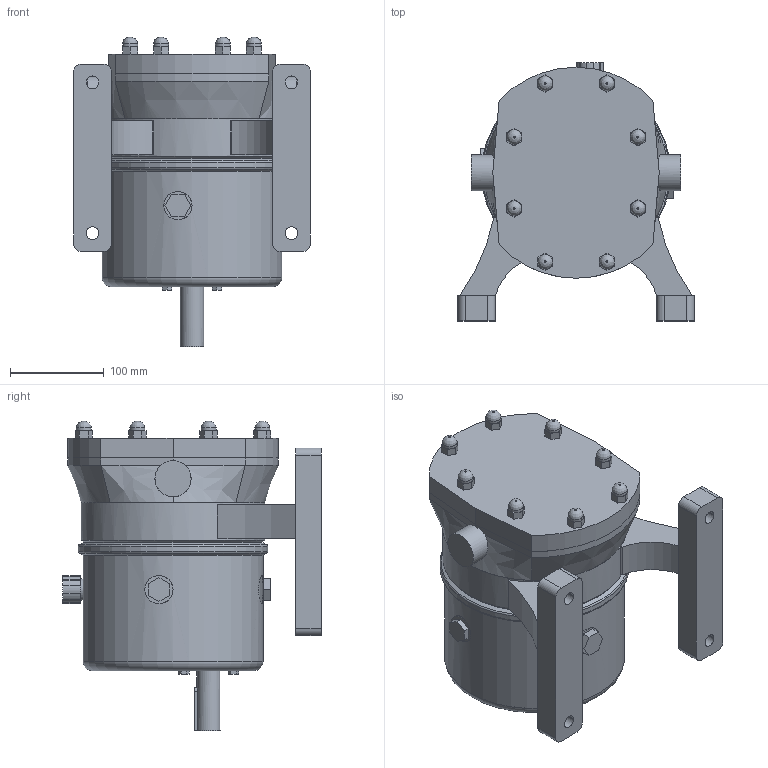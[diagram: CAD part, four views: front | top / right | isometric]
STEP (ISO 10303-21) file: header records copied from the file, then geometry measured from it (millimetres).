
FILE_DESCRIPTION((''),'2;1');
FILE_NAME('T:\_Engineering\Read Only\Studenci\Maciej\DW pumps\STEP\DW3_014_10_shaft_bottom.stp','2013-06-10T11:05:44',('pszymczyk'),(''),'Autodesk Inventor 2012','Autodesk Inventor 2012','');
FILE_SCHEMA(('CONFIG_CONTROL_DESIGN'));
Length unit declared in the file: millimetre
Products named in the file (1): DW_iparts
Bounding box: 252 x 275.5 x 330 mm (x, y, z)
Volume: 4742215.4 mm3; surface area: 499496.6 mm2
Topology: 1 solids, 3 shells, 311 faces, 754 edges, 473 vertices
Faces by surface type: plane 218, cylinder 68, bspline 12, cone 9, torus 4
Full cylindrical faces by diameter (mm): 16 x8, 23 x1, 25 x1, 30 x4, 38.6 x2, 90 x1, 110 x1, 189 x2, 192 x2, 196 x2, 202 x1
Entity records: 9504 total; most frequent: CARTESIAN_POINT 2193, DIRECTION 1503, ORIENTED_EDGE 1420, EDGE_CURVE 710, AXIS2_PLACEMENT_3D 502, VECTOR 499, LINE 499, VERTEX_POINT 470
